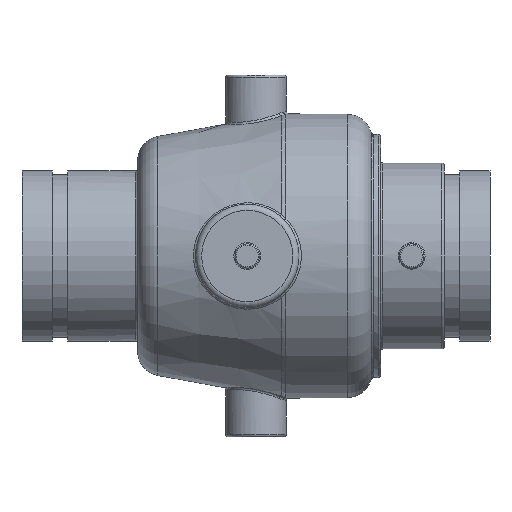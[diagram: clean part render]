
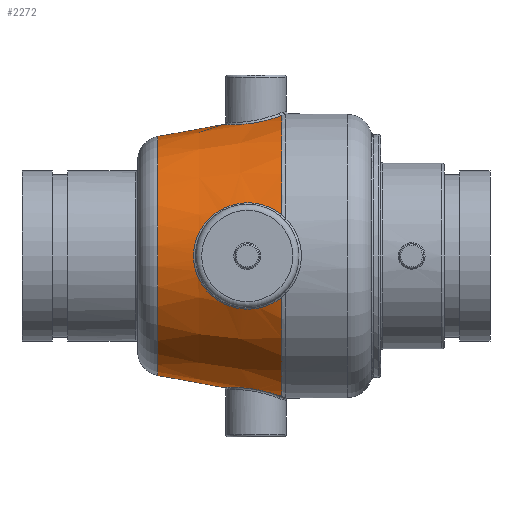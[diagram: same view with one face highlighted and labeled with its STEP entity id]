
A CAD part, front view. The second image highlights one B-rep face of the part: STEP entity #2272.
In plain terms, the highlighted conical face has half-angle 10 degrees and reference radius 74.196 mm.
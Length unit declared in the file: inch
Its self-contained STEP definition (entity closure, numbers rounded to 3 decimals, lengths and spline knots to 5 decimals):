
#51=CONICAL_SURFACE('',#2501,2.92112,0.175);
#235=FACE_OUTER_BOUND('',#374,.T.);
#374=EDGE_LOOP('',(#1642,#1643,#1644,#1645,#1646,#1647,#1648,#1649));
#544=CIRCLE('',#2502,2.91352);
#545=CIRCLE('',#2503,2.91352);
#546=CIRCLE('',#2504,2.46499);
#651=LINE('',#5374,#732);
#654=LINE('',#5413,#735);
#732=VECTOR('',#2959,0.3937);
#735=VECTOR('',#2968,0.3937);
#815=B_SPLINE_CURVE_WITH_KNOTS('',3,(#5211,#5212,#5213,#5214,#5215,#5216,
#5217,#5218,#5219,#5220),.UNSPECIFIED.,.F.,.F.,(4,1,1,1,1,1,1,4),(-4.85725,
-4.16336,-3.46947,-2.77557,-2.08168,
-1.38779,-0.69389,0.),.UNSPECIFIED.);
#822=B_SPLINE_CURVE_WITH_KNOTS('',3,(#5382,#5383,#5384,#5385,#5386,#5387,
#5388,#5389,#5390,#5391,#5392,#5393,#5394,#5395,#5396,#5397,#5398),
 .UNSPECIFIED.,.F.,.F.,(4,1,1,1,1,1,1,1,1,1,1,1,1,1,4),(-12.88864,
-11.96802,-11.04741,-10.12679,-9.20617,
-7.36494,-6.75119,-6.13745,-5.5237,
-4.60309,-3.68247,-2.76185,-1.84123,
-0.92062,0.),.UNSPECIFIED.);
#823=B_SPLINE_CURVE_WITH_KNOTS('',3,(#5402,#5403,#5404,#5405,#5406,#5407,
#5408,#5409,#5410,#5411),.UNSPECIFIED.,.F.,.F.,(4,1,1,1,1,1,1,4),(-4.85727,
-4.16338,-3.46948,-2.77558,-2.08169,
-1.38779,-0.6939,0.),.UNSPECIFIED.);
#936=VERTEX_POINT('',#5208);
#937=VERTEX_POINT('',#5210);
#946=VERTEX_POINT('',#5373);
#948=VERTEX_POINT('',#5379);
#949=VERTEX_POINT('',#5381);
#950=VERTEX_POINT('',#5399);
#951=VERTEX_POINT('',#5401);
#952=VERTEX_POINT('',#5412);
#1181=EDGE_CURVE('',#936,#937,#815,.T.);
#1198=EDGE_CURVE('',#937,#946,#651,.T.);
#1201=EDGE_CURVE('',#948,#936,#544,.T.);
#1202=EDGE_CURVE('',#949,#948,#822,.T.);
#1203=EDGE_CURVE('',#950,#949,#545,.T.);
#1204=EDGE_CURVE('',#951,#950,#823,.T.);
#1205=EDGE_CURVE('',#951,#952,#654,.T.);
#1206=EDGE_CURVE('',#946,#952,#546,.T.);
#1642=ORIENTED_EDGE('',*,*,#1181,.F.);
#1643=ORIENTED_EDGE('',*,*,#1201,.F.);
#1644=ORIENTED_EDGE('',*,*,#1202,.F.);
#1645=ORIENTED_EDGE('',*,*,#1203,.F.);
#1646=ORIENTED_EDGE('',*,*,#1204,.F.);
#1647=ORIENTED_EDGE('',*,*,#1205,.T.);
#1648=ORIENTED_EDGE('',*,*,#1206,.F.);
#1649=ORIENTED_EDGE('',*,*,#1198,.F.);
#2272=ADVANCED_FACE('',(#235),#51,.T.);
#2501=AXIS2_PLACEMENT_3D('',#5378,#2962,#2963);
#2502=AXIS2_PLACEMENT_3D('',#5380,#2964,#2965);
#2503=AXIS2_PLACEMENT_3D('',#5400,#2966,#2967);
#2504=AXIS2_PLACEMENT_3D('',#5414,#2969,#2970);
#2959=DIRECTION('',(-0.985,-0.015,0.173));
#2962=DIRECTION('center_axis',(1.,0.,0.));
#2963=DIRECTION('ref_axis',(0.,-1.,0.));
#2964=DIRECTION('center_axis',(1.,0.,0.));
#2965=DIRECTION('ref_axis',(0.,-1.,0.));
#2966=DIRECTION('center_axis',(1.,0.,0.));
#2967=DIRECTION('ref_axis',(0.,-1.,0.));
#2968=DIRECTION('',(-0.985,-0.015,-0.173));
#2969=DIRECTION('center_axis',(-1.,0.,0.));
#2970=DIRECTION('ref_axis',(0.,-1.,0.));
#5208=CARTESIAN_POINT('',(5.33442,-0.42824,-2.88188));
#5210=CARTESIAN_POINT('',(4.18802,0.23631,-2.70106));
#5211=CARTESIAN_POINT('Ctrl Pts',(5.33442,-0.42824,-2.88188));
#5212=CARTESIAN_POINT('Ctrl Pts',(5.27715,-0.49491,-2.86176));
#5213=CARTESIAN_POINT('Ctrl Pts',(5.13674,-0.60467,-2.81545));
#5214=CARTESIAN_POINT('Ctrl Pts',(4.87705,-0.67874,-2.75026));
#5215=CARTESIAN_POINT('Ctrl Pts',(4.6029,-0.64768,-2.70841));
#5216=CARTESIAN_POINT('Ctrl Pts',(4.36059,-0.51186,-2.6955));
#5217=CARTESIAN_POINT('Ctrl Pts',(4.19252,-0.29323,-2.70011));
#5218=CARTESIAN_POINT('Ctrl Pts',(4.12556,-0.02742,-2.70489));
#5219=CARTESIAN_POINT('Ctrl Pts',(4.15557,0.15275,-2.70263));
#5220=CARTESIAN_POINT('Ctrl Pts',(4.18802,0.23631,-2.70106));
#5373=CARTESIAN_POINT('',(2.79068,0.21484,-2.45561));
#5374=CARTESIAN_POINT('',(5.3775,0.25459,-2.91));
#5378=CARTESIAN_POINT('Origin',(5.3775,0.,0.));
#5379=CARTESIAN_POINT('',(5.33442,-2.78565,-0.85368));
#5380=CARTESIAN_POINT('Origin',(5.33442,0.,0.));
#5381=CARTESIAN_POINT('',(5.33442,-2.78565,0.85368));
#5382=CARTESIAN_POINT('Ctrl Pts',(5.33442,-2.78565,0.85368));
#5383=CARTESIAN_POINT('Ctrl Pts',(5.24504,-2.7476,0.92404));
#5384=CARTESIAN_POINT('Ctrl Pts',(5.04482,-2.66936,1.0371));
#5385=CARTESIAN_POINT('Ctrl Pts',(4.69904,-2.57203,1.11053));
#5386=CARTESIAN_POINT('Ctrl Pts',(4.33699,-2.519,1.07201));
#5387=CARTESIAN_POINT('Ctrl Pts',(3.8908,-2.5184,0.8696));
#5388=CARTESIAN_POINT('Ctrl Pts',(3.61058,-2.57532,0.50759));
#5389=CARTESIAN_POINT('Ctrl Pts',(3.52414,-2.59507,0.11922));
#5390=CARTESIAN_POINT('Ctrl Pts',(3.52394,-2.59523,-0.11925));
#5391=CARTESIAN_POINT('Ctrl Pts',(3.58507,-2.58091,-0.39084));
#5392=CARTESIAN_POINT('Ctrl Pts',(3.73736,-2.54992,-0.67248));
#5393=CARTESIAN_POINT('Ctrl Pts',(4.00271,-2.51822,-0.91996));
#5394=CARTESIAN_POINT('Ctrl Pts',(4.33677,-2.51916,-1.07213));
#5395=CARTESIAN_POINT('Ctrl Pts',(4.69913,-2.57195,-1.11047));
#5396=CARTESIAN_POINT('Ctrl Pts',(5.04477,-2.66941,-1.03713));
#5397=CARTESIAN_POINT('Ctrl Pts',(5.24504,-2.7476,-0.92404));
#5398=CARTESIAN_POINT('Ctrl Pts',(5.33442,-2.78565,-0.85368));
#5399=CARTESIAN_POINT('',(5.33442,-0.42824,2.88188));
#5400=CARTESIAN_POINT('Origin',(5.33442,0.,0.));
#5401=CARTESIAN_POINT('',(4.18802,0.23631,2.70106));
#5402=CARTESIAN_POINT('Ctrl Pts',(4.18802,0.23631,2.70106));
#5403=CARTESIAN_POINT('Ctrl Pts',(4.15557,0.15275,2.70263));
#5404=CARTESIAN_POINT('Ctrl Pts',(4.12557,-0.0274,
2.70491));
#5405=CARTESIAN_POINT('Ctrl Pts',(4.19248,-0.29325,2.7001));
#5406=CARTESIAN_POINT('Ctrl Pts',(4.36066,-0.51177,2.69553));
#5407=CARTESIAN_POINT('Ctrl Pts',(4.60287,-0.6478,2.70832));
#5408=CARTESIAN_POINT('Ctrl Pts',(4.87697,-0.67866,2.75033));
#5409=CARTESIAN_POINT('Ctrl Pts',(5.13676,-0.6047,2.81542));
#5410=CARTESIAN_POINT('Ctrl Pts',(5.27715,-0.49491,2.86176));
#5411=CARTESIAN_POINT('Ctrl Pts',(5.33442,-0.42824,2.88188));
#5412=CARTESIAN_POINT('',(2.79068,0.21484,2.45561));
#5413=CARTESIAN_POINT('',(5.3775,0.25459,2.91));
#5414=CARTESIAN_POINT('Origin',(2.79068,0.,0.));
